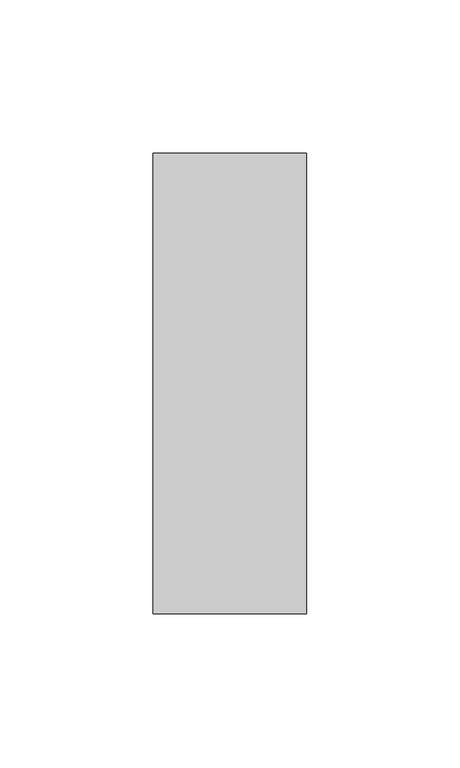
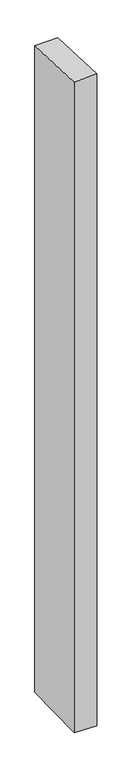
"""IFC4 building model written with IfcOpenShell, lengths in millimetres: member geometry, Прямоугольный импост : 50 x 150 мм."""

from ifc_helpers import new_model, si_unit, origin, place, context, project, spatial, faceted_brep, source, transform, mapped, element, save


def member_a68f8600(model_context):
    return source(origin(), model_context, "Body", "Brep", [
        faceted_brep([(-25.0, 75.0, -4.026671), (25.0, 75.0, -2.6241698), (25.0, 75.0, -1511.5447658), (-25.0, 75.0, -1510.4064829), (-25.0, -75.0, 2.6241698), (-25.0, -75.0, -1513.6767471), (25.0, -75.0, 4.026671), (25.0, -75.0, -1514.81503)], [[[0, 1, 2, 3]], [[4, 0, 3, 5]], [[6, 4, 5, 7]], [[1, 6, 7, 2]], [[1, 0, 4, 6]], [[2, 7, 5, 3]]]),
    ])


if __name__ == "__main__":
    model = new_model("IFC4")
    model_context = context("Model", 3, world=origin())
    ifc_project = project(units=[si_unit("LENGTHUNIT", "METRE", prefix="MILLI")], contexts=[model_context])
    site = spatial("IfcSite", under=ifc_project)
    building = spatial("IfcBuilding", under=site)
    placement = place(None, origin())
    member_shape = member_a68f8600(model_context)
    element("IfcMember", 1, ObjectType="Прямоугольный импост : 50 x 150 мм", at=placement, inside=building, context=model_context, shape_type="MappedRepresentation", body=[
        mapped(member_shape, transform((0.0, 0.0, 0.0), x_axis=(1.0, 0.0, 0.0), y_axis=(0.0, 1.0, 0.0), z_axis=(0.0, 0.0, 1.0))),
    ])
    save(model, "model.ifc")
